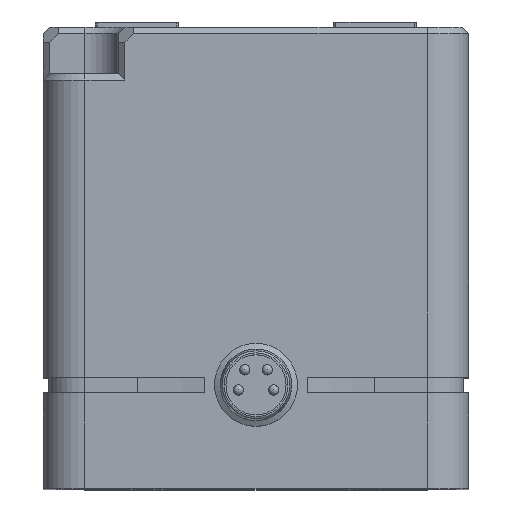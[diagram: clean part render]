
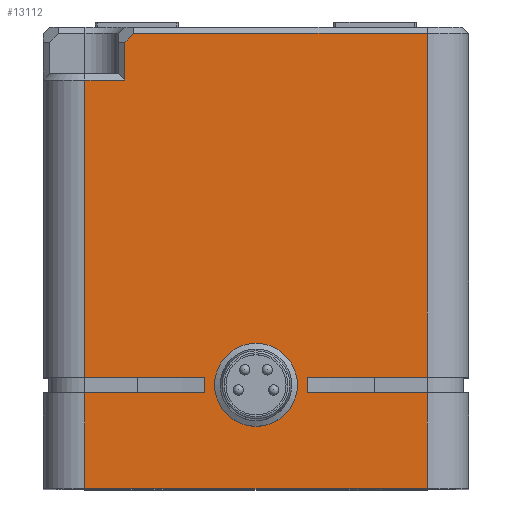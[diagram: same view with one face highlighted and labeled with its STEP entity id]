
A CAD part, top view. The second image highlights one B-rep face of the part: STEP entity #13112.
In plain terms, the highlighted planar face has unit normal (0, 0, 1).
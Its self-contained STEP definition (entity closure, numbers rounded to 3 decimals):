
#1400=PLANE('',#13675);
#2072=FACE_OUTER_BOUND('',#2846,.T.);
#2846=EDGE_LOOP('',(#11928,#11929,#11930,#11931,#11932,#11933,#11934,#11935,
#11936,#11937,#11938,#11939,#11940,#11941,#11942));
#3854=LINE('',#28673,#4984);
#3860=LINE('',#28697,#4990);
#3861=LINE('',#28701,#4991);
#3877=LINE('',#28743,#5007);
#3879=LINE('',#28753,#5009);
#3880=LINE('',#28755,#5010);
#3883=LINE('',#28765,#5013);
#3885=LINE('',#28772,#5015);
#3887=LINE('',#28778,#5017);
#3913=LINE('',#28843,#5043);
#3925=LINE('',#28875,#5055);
#3952=LINE('',#28932,#5082);
#3963=LINE('',#28959,#5093);
#3969=LINE('',#28971,#5099);
#3970=LINE('',#28974,#5100);
#4984=VECTOR('',#15393,10.);
#4990=VECTOR('',#15411,10.);
#4991=VECTOR('',#15416,10.);
#5007=VECTOR('',#15462,10.);
#5009=VECTOR('',#15472,10.);
#5010=VECTOR('',#15473,10.);
#5013=VECTOR('',#15482,10.);
#5015=VECTOR('',#15490,10.);
#5017=VECTOR('',#15496,10.);
#5043=VECTOR('',#15558,10.);
#5055=VECTOR('',#15586,10.);
#5082=VECTOR('',#15637,10.);
#5093=VECTOR('',#15670,10.);
#5099=VECTOR('',#15682,10.);
#5100=VECTOR('',#15687,10.);
#6429=VERTEX_POINT('',#28670);
#6430=VERTEX_POINT('',#28672);
#6441=VERTEX_POINT('',#28694);
#6442=VERTEX_POINT('',#28696);
#6443=VERTEX_POINT('',#28700);
#6454=VERTEX_POINT('',#28742);
#6458=VERTEX_POINT('',#28751);
#6459=VERTEX_POINT('',#28754);
#6463=VERTEX_POINT('',#28764);
#6465=VERTEX_POINT('',#28770);
#6467=VERTEX_POINT('',#28776);
#6486=VERTEX_POINT('',#28837);
#6498=VERTEX_POINT('',#28871);
#6500=VERTEX_POINT('',#28874);
#6526=VERTEX_POINT('',#28970);
#8226=EDGE_CURVE('',#6430,#6429,#3854,.T.);
#8238=EDGE_CURVE('',#6442,#6441,#3860,.T.);
#8240=EDGE_CURVE('',#6441,#6443,#3861,.T.);
#8261=EDGE_CURVE('',#6454,#6430,#3877,.T.);
#8266=EDGE_CURVE('',#6443,#6458,#3879,.T.);
#8267=EDGE_CURVE('',#6459,#6454,#3880,.T.);
#8272=EDGE_CURVE('',#6442,#6463,#3883,.T.);
#8276=EDGE_CURVE('',#6465,#6458,#3885,.T.);
#8279=EDGE_CURVE('',#6467,#6429,#3887,.T.);
#8311=EDGE_CURVE('',#6463,#6486,#3913,.T.);
#8326=EDGE_CURVE('',#6500,#6498,#3925,.T.);
#8356=EDGE_CURVE('',#6500,#6467,#3952,.T.);
#8370=EDGE_CURVE('',#6486,#6498,#3963,.T.);
#8376=EDGE_CURVE('',#6459,#6526,#3969,.T.);
#8378=EDGE_CURVE('',#6465,#6526,#3970,.T.);
#11928=ORIENTED_EDGE('',*,*,#8266,.T.);
#11929=ORIENTED_EDGE('',*,*,#8276,.F.);
#11930=ORIENTED_EDGE('',*,*,#8378,.T.);
#11931=ORIENTED_EDGE('',*,*,#8376,.F.);
#11932=ORIENTED_EDGE('',*,*,#8267,.T.);
#11933=ORIENTED_EDGE('',*,*,#8261,.T.);
#11934=ORIENTED_EDGE('',*,*,#8226,.T.);
#11935=ORIENTED_EDGE('',*,*,#8279,.F.);
#11936=ORIENTED_EDGE('',*,*,#8356,.F.);
#11937=ORIENTED_EDGE('',*,*,#8326,.T.);
#11938=ORIENTED_EDGE('',*,*,#8370,.F.);
#11939=ORIENTED_EDGE('',*,*,#8311,.F.);
#11940=ORIENTED_EDGE('',*,*,#8272,.F.);
#11941=ORIENTED_EDGE('',*,*,#8238,.T.);
#11942=ORIENTED_EDGE('',*,*,#8240,.T.);
#13112=ADVANCED_FACE('',(#2072),#1400,.T.);
#13675=AXIS2_PLACEMENT_3D('',#28973,#15685,#15686);
#15393=DIRECTION('',(1.,0.,0.));
#15411=DIRECTION('',(1.,0.,0.));
#15416=DIRECTION('',(0.,-1.,0.));
#15462=DIRECTION('',(0.,1.,0.));
#15472=DIRECTION('',(-1.,0.,0.));
#15473=DIRECTION('',(-1.,0.,0.));
#15482=DIRECTION('',(0.,1.,0.));
#15490=DIRECTION('',(0.,1.,0.));
#15496=DIRECTION('',(0.,-1.,0.));
#15558=DIRECTION('',(1.,0.,0.));
#15586=DIRECTION('',(-0.707,-0.707,0.));
#15637=DIRECTION('',(1.,0.,0.));
#15670=DIRECTION('',(0.,1.,0.));
#15682=DIRECTION('',(0.,-1.,0.));
#15685=DIRECTION('center_axis',(0.,0.,1.));
#15686=DIRECTION('ref_axis',(1.,0.,0.));
#15687=DIRECTION('',(1.,0.,0.));
#28670=CARTESIAN_POINT('',(16.5,10.75,37.5));
#28672=CARTESIAN_POINT('',(5.,10.75,37.5));
#28673=CARTESIAN_POINT('',(-10.25,10.75,37.5));
#28694=CARTESIAN_POINT('',(-5.,10.75,37.5));
#28696=CARTESIAN_POINT('',(-16.5,10.75,37.5));
#28697=CARTESIAN_POINT('',(-10.25,10.75,37.5));
#28700=CARTESIAN_POINT('',(-5.,9.25,37.5));
#28701=CARTESIAN_POINT('',(-5.,10.,37.5));
#28742=CARTESIAN_POINT('',(5.,9.25,37.5));
#28743=CARTESIAN_POINT('',(5.,10.,37.5));
#28751=CARTESIAN_POINT('',(-16.5,9.25,37.5));
#28753=CARTESIAN_POINT('',(-10.25,9.25,37.5));
#28754=CARTESIAN_POINT('',(16.5,9.25,37.5));
#28755=CARTESIAN_POINT('',(-10.25,9.25,37.5));
#28764=CARTESIAN_POINT('',(-16.5,39.4,37.5));
#28765=CARTESIAN_POINT('',(-16.5,0.,37.5));
#28770=CARTESIAN_POINT('',(-16.5,0.,37.5));
#28772=CARTESIAN_POINT('',(-16.5,0.,37.5));
#28776=CARTESIAN_POINT('',(16.5,43.9,37.5));
#28778=CARTESIAN_POINT('',(16.5,0.,37.5));
#28837=CARTESIAN_POINT('',(-12.65,39.4,37.5));
#28843=CARTESIAN_POINT('',(-18.5,39.4,37.5));
#28871=CARTESIAN_POINT('',(-12.65,43.034,37.5));
#28874=CARTESIAN_POINT('',(-11.784,43.9,37.5));
#28875=CARTESIAN_POINT('',(-25.004,30.679,37.5));
#28932=CARTESIAN_POINT('',(-10.25,43.9,37.5));
#28959=CARTESIAN_POINT('',(-12.65,22.25,37.5));
#28970=CARTESIAN_POINT('',(16.5,0.,37.5));
#28971=CARTESIAN_POINT('',(16.5,0.,37.5));
#28973=CARTESIAN_POINT('Origin',(-20.5,0.,37.5));
#28974=CARTESIAN_POINT('',(-20.5,0.,37.5));
